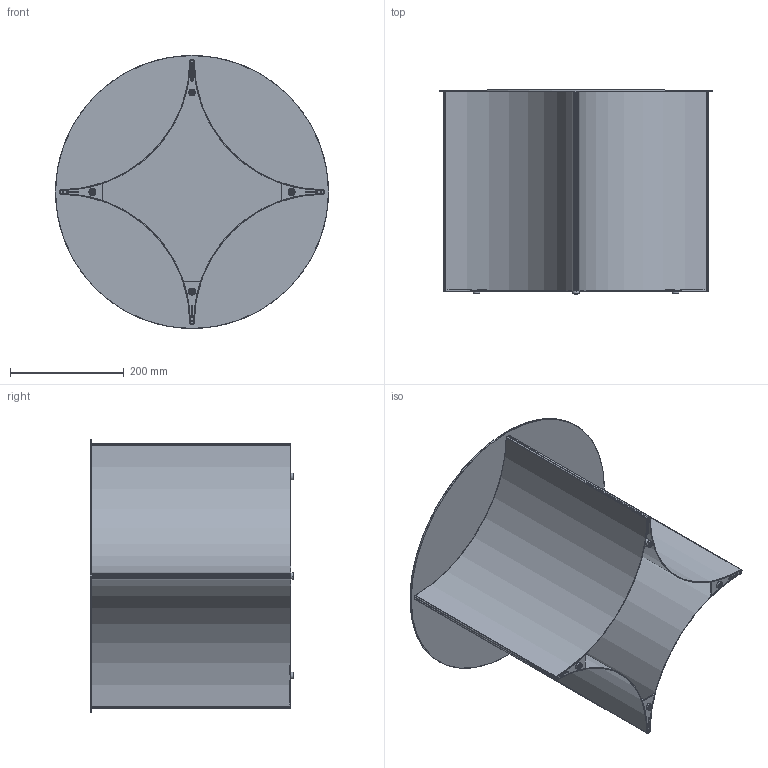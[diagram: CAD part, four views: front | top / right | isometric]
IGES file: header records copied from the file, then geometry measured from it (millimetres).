
Start section: SolidWorks IGES file using analytic representation for surfaces
Global section: file name: \\utenti\Dati Utenti\Tecnico\DC\2D - 3D per sito\3D\DeCastelli-3D-Alchemy 35.igs; native system: SolidWorks 2022; preprocessor: SolidWorks 2022; author: Simonep; date: 240729.120048; units: millimetre
Bounding box: 480 x 358.05 x 480 mm (x, y, z)
Surface area: 1633772.4 mm2 (no closed solid volume)
Topology: 0 solids, 0 shells, 159 faces, 1368 edges, 1360 vertices
Faces by surface type: bspline 109, revolution 50
